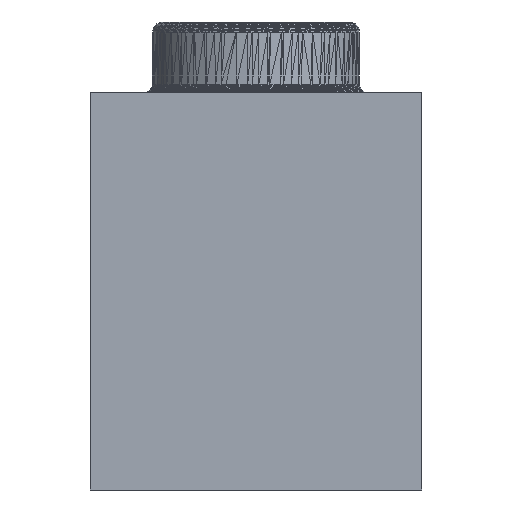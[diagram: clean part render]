
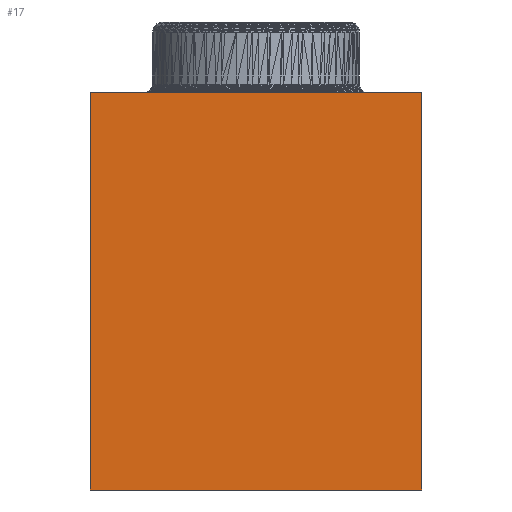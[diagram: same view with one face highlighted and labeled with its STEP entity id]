
A CAD part, front view. The second image highlights one B-rep face of the part: STEP entity #17.
In plain terms, the highlighted planar face has unit normal (0, -1, 0).
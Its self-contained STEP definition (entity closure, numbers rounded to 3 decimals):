
#17 = ADVANCED_FACE('',(#18),#32,.T.);
#18 = FACE_BOUND('',#19,.T.);
#19 = EDGE_LOOP('',(#20,#55,#83,#111));
#20 = ORIENTED_EDGE('',*,*,#21,.F.);
#21 = EDGE_CURVE('',#22,#24,#26,.T.);
#22 = VERTEX_POINT('',#23);
#23 = CARTESIAN_POINT('',(0.,0.,9.6));
#24 = VERTEX_POINT('',#25);
#25 = CARTESIAN_POINT('',(8.,0.,9.6));
#26 = SURFACE_CURVE('',#27,(#31,#43),.PCURVE_S1.);
#27 = LINE('',#28,#29);
#28 = CARTESIAN_POINT('',(0.,0.,9.6));
#29 = VECTOR('',#30,1.);
#30 = DIRECTION('',(1.,0.,0.));
#31 = PCURVE('',#32,#37);
#32 = PLANE('',#33);
#33 = AXIS2_PLACEMENT_3D('',#34,#35,#36);
#34 = CARTESIAN_POINT('',(8.,0.,9.6));
#35 = DIRECTION('',(-0.,-1.,-0.));
#36 = DIRECTION('',(0.,0.,-1.));
#37 = DEFINITIONAL_REPRESENTATION('',(#38),#42);
#38 = LINE('',#39,#40);
#39 = CARTESIAN_POINT('',(0.,-8.));
#40 = VECTOR('',#41,1.);
#41 = DIRECTION('',(0.,1.));
#42 = ( GEOMETRIC_REPRESENTATION_CONTEXT(2) 
PARAMETRIC_REPRESENTATION_CONTEXT() REPRESENTATION_CONTEXT('2D SPACE',''
  ) );
#43 = PCURVE('',#44,#49);
#44 = PLANE('',#45);
#45 = AXIS2_PLACEMENT_3D('',#46,#47,#48);
#46 = CARTESIAN_POINT('',(1.541,5.116,9.6));
#47 = DIRECTION('',(0.,0.,1.));
#48 = DIRECTION('',(1.,0.,-0.));
#49 = DEFINITIONAL_REPRESENTATION('',(#50),#54);
#50 = LINE('',#51,#52);
#51 = CARTESIAN_POINT('',(-1.541,-5.116));
#52 = VECTOR('',#53,1.);
#53 = DIRECTION('',(1.,0.));
#54 = ( GEOMETRIC_REPRESENTATION_CONTEXT(2) 
PARAMETRIC_REPRESENTATION_CONTEXT() REPRESENTATION_CONTEXT('2D SPACE',''
  ) );
#55 = ORIENTED_EDGE('',*,*,#56,.F.);
#56 = EDGE_CURVE('',#57,#22,#59,.T.);
#57 = VERTEX_POINT('',#58);
#58 = CARTESIAN_POINT('',(0.,0.,0.));
#59 = SURFACE_CURVE('',#60,(#64,#71),.PCURVE_S1.);
#60 = LINE('',#61,#62);
#61 = CARTESIAN_POINT('',(0.,0.,0.));
#62 = VECTOR('',#63,1.);
#63 = DIRECTION('',(0.,0.,1.));
#64 = PCURVE('',#32,#65);
#65 = DEFINITIONAL_REPRESENTATION('',(#66),#70);
#66 = LINE('',#67,#68);
#67 = CARTESIAN_POINT('',(9.6,-8.));
#68 = VECTOR('',#69,1.);
#69 = DIRECTION('',(-1.,0.));
#70 = ( GEOMETRIC_REPRESENTATION_CONTEXT(2) 
PARAMETRIC_REPRESENTATION_CONTEXT() REPRESENTATION_CONTEXT('2D SPACE',''
  ) );
#71 = PCURVE('',#72,#77);
#72 = PLANE('',#73);
#73 = AXIS2_PLACEMENT_3D('',#74,#75,#76);
#74 = CARTESIAN_POINT('',(0.,0.,9.6));
#75 = DIRECTION('',(-1.,0.,0.));
#76 = DIRECTION('',(0.,0.,-1.));
#77 = DEFINITIONAL_REPRESENTATION('',(#78),#82);
#78 = LINE('',#79,#80);
#79 = CARTESIAN_POINT('',(9.6,0.));
#80 = VECTOR('',#81,1.);
#81 = DIRECTION('',(-1.,-0.));
#82 = ( GEOMETRIC_REPRESENTATION_CONTEXT(2) 
PARAMETRIC_REPRESENTATION_CONTEXT() REPRESENTATION_CONTEXT('2D SPACE',''
  ) );
#83 = ORIENTED_EDGE('',*,*,#84,.T.);
#84 = EDGE_CURVE('',#57,#85,#87,.T.);
#85 = VERTEX_POINT('',#86);
#86 = CARTESIAN_POINT('',(8.,0.,0.));
#87 = SURFACE_CURVE('',#88,(#92,#99),.PCURVE_S1.);
#88 = LINE('',#89,#90);
#89 = CARTESIAN_POINT('',(0.,0.,0.));
#90 = VECTOR('',#91,1.);
#91 = DIRECTION('',(1.,0.,0.));
#92 = PCURVE('',#32,#93);
#93 = DEFINITIONAL_REPRESENTATION('',(#94),#98);
#94 = LINE('',#95,#96);
#95 = CARTESIAN_POINT('',(9.6,-8.));
#96 = VECTOR('',#97,1.);
#97 = DIRECTION('',(0.,1.));
#98 = ( GEOMETRIC_REPRESENTATION_CONTEXT(2) 
PARAMETRIC_REPRESENTATION_CONTEXT() REPRESENTATION_CONTEXT('2D SPACE',''
  ) );
#99 = PCURVE('',#100,#105);
#100 = PLANE('',#101);
#101 = AXIS2_PLACEMENT_3D('',#102,#103,#104);
#102 = CARTESIAN_POINT('',(6.6,1.4,0.));
#103 = DIRECTION('',(-0.,0.,-1.));
#104 = DIRECTION('',(0.,-1.,0.));
#105 = DEFINITIONAL_REPRESENTATION('',(#106),#110);
#106 = LINE('',#107,#108);
#107 = CARTESIAN_POINT('',(1.4,6.6));
#108 = VECTOR('',#109,1.);
#109 = DIRECTION('',(0.,-1.));
#110 = ( GEOMETRIC_REPRESENTATION_CONTEXT(2) 
PARAMETRIC_REPRESENTATION_CONTEXT() REPRESENTATION_CONTEXT('2D SPACE',''
  ) );
#111 = ORIENTED_EDGE('',*,*,#112,.T.);
#112 = EDGE_CURVE('',#85,#24,#113,.T.);
#113 = SURFACE_CURVE('',#114,(#118,#125),.PCURVE_S1.);
#114 = LINE('',#115,#116);
#115 = CARTESIAN_POINT('',(8.,0.,0.));
#116 = VECTOR('',#117,1.);
#117 = DIRECTION('',(0.,0.,1.));
#118 = PCURVE('',#32,#119);
#119 = DEFINITIONAL_REPRESENTATION('',(#120),#124);
#120 = LINE('',#121,#122);
#121 = CARTESIAN_POINT('',(9.6,0.));
#122 = VECTOR('',#123,1.);
#123 = DIRECTION('',(-1.,0.));
#124 = ( GEOMETRIC_REPRESENTATION_CONTEXT(2) 
PARAMETRIC_REPRESENTATION_CONTEXT() REPRESENTATION_CONTEXT('2D SPACE',''
  ) );
#125 = PCURVE('',#126,#131);
#126 = PLANE('',#127);
#127 = AXIS2_PLACEMENT_3D('',#128,#129,#130);
#128 = CARTESIAN_POINT('',(8.,8.,9.6));
#129 = DIRECTION('',(1.,0.,0.));
#130 = DIRECTION('',(-0.,0.,1.));
#131 = DEFINITIONAL_REPRESENTATION('',(#132),#136);
#132 = LINE('',#133,#134);
#133 = CARTESIAN_POINT('',(-9.6,8.));
#134 = VECTOR('',#135,1.);
#135 = DIRECTION('',(1.,0.));
#136 = ( GEOMETRIC_REPRESENTATION_CONTEXT(2) 
PARAMETRIC_REPRESENTATION_CONTEXT() REPRESENTATION_CONTEXT('2D SPACE',''
  ) );
